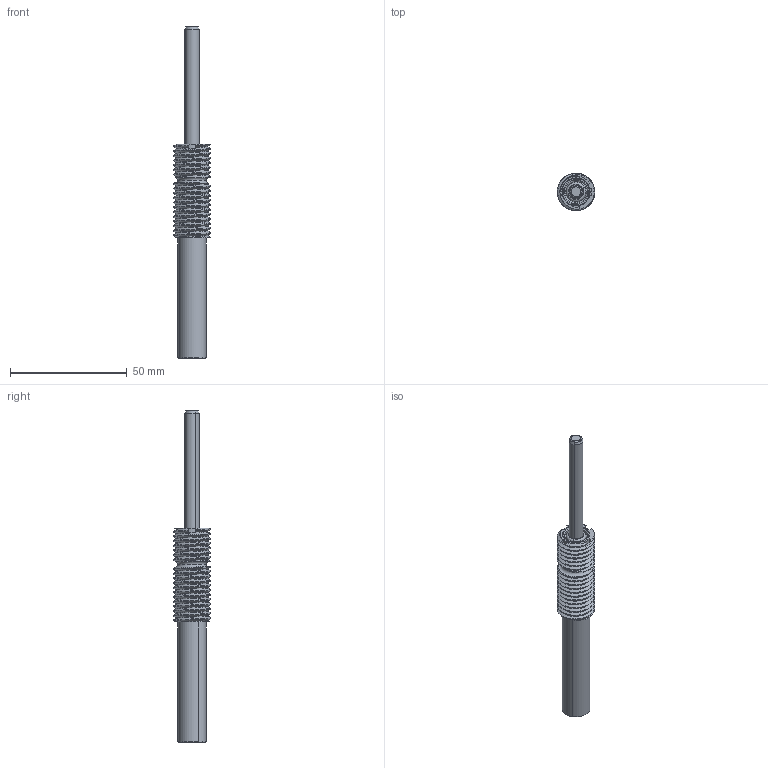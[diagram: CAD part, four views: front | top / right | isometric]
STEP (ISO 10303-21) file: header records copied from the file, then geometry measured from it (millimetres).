
FILE_DESCRIPTION(('FreeCAD Model'),'2;1');
FILE_NAME('Open CASCADE Shape Model','2024-09-16T09:01:11',('Author'),( ''),'Open CASCADE STEP processor 7.6','FreeCAD','Unknown');
FILE_SCHEMA(('AUTOMOTIVE_DESIGN { 1 0 10303 214 1 1 1 1 }'));
Length unit declared in the file: millimetre
Products named in the file (10): TPRN16x7; Cut004; C:\Documents and Settings\Luisg\Mis documentos\Dibujos catálogo 
2009\MICRO25x032; C:\Documents and Settings\Luisg\Mis documentos\Dibujos catálogo 
2009\MICRO25x25; C:\Documents and Settings\Luisg\Mis documentos\Dibujos catálogo 
2009\MICRO25x026; C:\Documents and Settings\Luisg\Mis documentos\Dibujos catálogo 
2009\MICRO25x027; C:\Documents and Settings\Luisg\Mis documentos\Dibujos catálogo 
2009\MICRO25x028; C:\Documents and Settings\Luisg\Mis documentos\Dibujos catálogo 
2009\MICRO25x029; C:\Documents and Settings\Luisg\Mis documentos\Dibujos catálogo 
2009\MICRO25x030; C:\Documents and Settings\Luisg\Mis documentos\Dibujos catálogo 
2009\MICRO25x031
Assembly tree (9 placements, depth 3):
  TPRN16x7
    Cut004
    C:\Documents and Settings\Luisg\Mis documentos\Dibujos catálogo 
2009\MICRO25x032
      C:\Documents and Settings\Luisg\Mis documentos\Dibujos catálogo 
2009\MICRO25x25
      C:\Documents and Settings\Luisg\Mis documentos\Dibujos catálogo 
2009\MICRO25x026
      C:\Documents and Settings\Luisg\Mis documentos\Dibujos catálogo 
2009\MICRO25x027
      C:\Documents and Settings\Luisg\Mis documentos\Dibujos catálogo 
2009\MICRO25x028
      C:\Documents and Settings\Luisg\Mis documentos\Dibujos catálogo 
2009\MICRO25x029
      C:\Documents and Settings\Luisg\Mis documentos\Dibujos catálogo 
2009\MICRO25x030
      C:\Documents and Settings\Luisg\Mis documentos\Dibujos catálogo 
2009\MICRO25x031
Bounding box: 16 x 16 x 142 mm (x, y, z)
Volume: 8719.6 mm3; surface area: 14411.5 mm2
Topology: 9 solids, 9 shells, 266 faces, 567 edges, 328 vertices
Faces by surface type: cylinder 74, bspline 73, torus 48, plane 45, cone 26
Full cylindrical faces by diameter (mm): 12 x2, 16 x17
Entity records: 15107 total; most frequent: CARTESIAN_POINT 9663, ORIENTED_EDGE 1134, DIRECTION 996, EDGE_CURVE 567, AXIS2_PLACEMENT_3D 427, VERTEX_POINT 328, FACE_BOUND 285, EDGE_LOOP 285
